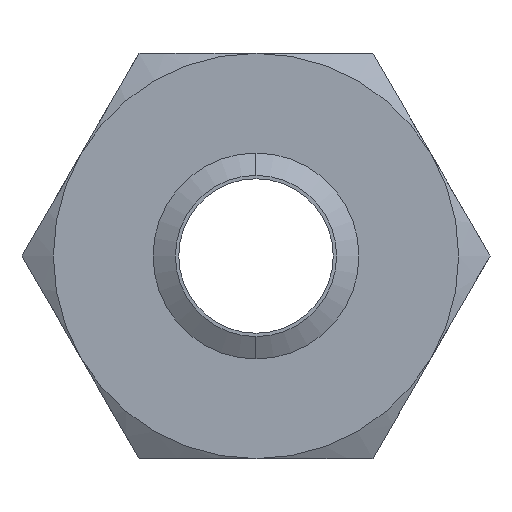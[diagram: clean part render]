
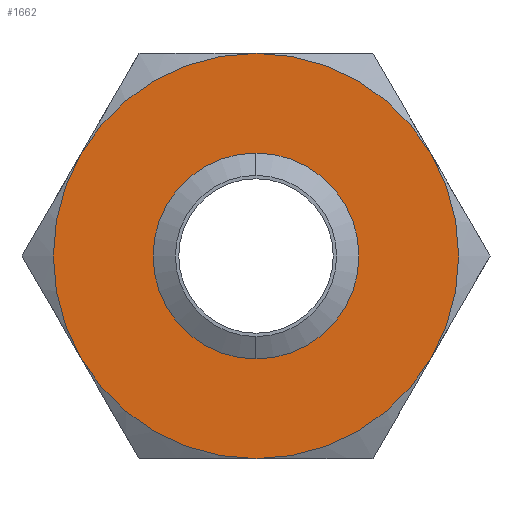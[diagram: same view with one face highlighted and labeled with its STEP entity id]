
A CAD part, front view. The second image highlights one B-rep face of the part: STEP entity #1662.
In plain terms, the highlighted planar face has unit normal (0, -1, 0).
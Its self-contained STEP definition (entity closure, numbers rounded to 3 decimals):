
#78 = VERTEX_POINT ( 'NONE', #367 ) ;
#194 = EDGE_CURVE ( 'NONE', #203, #1672, #592, .T. ) ;
#203 = VERTEX_POINT ( 'NONE', #630 ) ;
#367 = CARTESIAN_POINT ( 'NONE',  ( 21.651, 0., 12.5 ) ) ;
#588 = DIRECTION ( 'NONE',  ( 0., 0., 1. ) ) ;
#589 = DIRECTION ( 'NONE',  ( 0., 1., 0. ) ) ;
#590 = CARTESIAN_POINT ( 'NONE',  ( 0., 0., 0. ) ) ;
#591 = AXIS2_PLACEMENT_3D ( 'NONE', #590, #589, #588 ) ;
#592 = CIRCLE ( 'NONE', #591, 25. ) ;
#630 = CARTESIAN_POINT ( 'NONE',  ( -21.651, 0., 12.5 ) ) ;
#858 = DIRECTION ( 'NONE',  ( 0., 0., 1. ) ) ;
#859 = DIRECTION ( 'NONE',  ( 0., 1., 0. ) ) ;
#860 = AXIS2_PLACEMENT_3D ( 'NONE', #866, #859, #858 ) ;
#861 = CIRCLE ( 'NONE', #860, 25. ) ;
#866 = CARTESIAN_POINT ( 'NONE',  ( 0., 0., 0. ) ) ;
#874 = CARTESIAN_POINT ( 'NONE',  ( 21.651, 0., -12.5 ) ) ;
#883 = DIRECTION ( 'NONE',  ( 0., 0., 1. ) ) ;
#884 = DIRECTION ( 'NONE',  ( 0., 1., 0. ) ) ;
#886 = CARTESIAN_POINT ( 'NONE',  ( 14.434, 0., -25. ) ) ;
#887 = AXIS2_PLACEMENT_3D ( 'NONE', #886, #884, #883 ) ;
#888 = PLANE ( 'NONE',  #887 ) ;
#889 = FACE_BOUND ( 'NONE', #1692, .T. ) ;
#890 = FACE_OUTER_BOUND ( 'NONE', #1634, .T. ) ;
#926 = CARTESIAN_POINT ( 'NONE',  ( 0., 0., -25. ) ) ;
#927 = DIRECTION ( 'NONE',  ( 0., 0., 1. ) ) ;
#928 = DIRECTION ( 'NONE',  ( 0., 1., 0. ) ) ;
#929 = CARTESIAN_POINT ( 'NONE',  ( 0., 0., 0. ) ) ;
#930 = AXIS2_PLACEMENT_3D ( 'NONE', #929, #928, #927 ) ;
#931 = CIRCLE ( 'NONE', #930, 25. ) ;
#939 = DIRECTION ( 'NONE',  ( 0., 0., 1. ) ) ;
#940 = DIRECTION ( 'NONE',  ( 0., 1., 0. ) ) ;
#941 = CARTESIAN_POINT ( 'NONE',  ( 0., 0., 0. ) ) ;
#942 = AXIS2_PLACEMENT_3D ( 'NONE', #941, #940, #939 ) ;
#943 = CIRCLE ( 'NONE', #942, 25. ) ;
#945 = CARTESIAN_POINT ( 'NONE',  ( -21.651, 0., -12.5 ) ) ;
#946 = CARTESIAN_POINT ( 'NONE',  ( 0., 0., 25. ) ) ;
#951 = CARTESIAN_POINT ( 'NONE',  ( 0., 0., 0. ) ) ;
#959 = DIRECTION ( 'NONE',  ( 0., 0., 1. ) ) ;
#960 = DIRECTION ( 'NONE',  ( 0., 1., 0. ) ) ;
#961 = CARTESIAN_POINT ( 'NONE',  ( 0., 0., 0. ) ) ;
#962 = AXIS2_PLACEMENT_3D ( 'NONE', #961, #960, #959 ) ;
#963 = CIRCLE ( 'NONE', #962, 25. ) ;
#964 = DIRECTION ( 'NONE',  ( 0., 0., 1. ) ) ;
#965 = DIRECTION ( 'NONE',  ( 0., 1., 0. ) ) ;
#966 = CARTESIAN_POINT ( 'NONE',  ( 0., 0., 0. ) ) ;
#967 = AXIS2_PLACEMENT_3D ( 'NONE', #966, #965, #964 ) ;
#968 = CIRCLE ( 'NONE', #967, 25. ) ;
#1006 = DIRECTION ( 'NONE',  ( 0., 0., -1. ) ) ;
#1007 = DIRECTION ( 'NONE',  ( 0., -1., 0. ) ) ;
#1008 = AXIS2_PLACEMENT_3D ( 'NONE', #951, #1007, #1006 ) ;
#1009 = CIRCLE ( 'NONE', #1008, 9.946 ) ;
#1331 = DIRECTION ( 'NONE',  ( 0., 0., -1. ) ) ;
#1332 = DIRECTION ( 'NONE',  ( 0., -1., 0. ) ) ;
#1333 = CARTESIAN_POINT ( 'NONE',  ( 0., 0., 0. ) ) ;
#1334 = AXIS2_PLACEMENT_3D ( 'NONE', #1333, #1332, #1331 ) ;
#1335 = CIRCLE ( 'NONE', #1334, 9.946 ) ;
#1336 = CARTESIAN_POINT ( 'NONE',  ( 0., 0., -9.946 ) ) ;
#1337 = CARTESIAN_POINT ( 'NONE',  ( 0., 0., 9.946 ) ) ;
#1634 = EDGE_LOOP ( 'NONE', ( #1648, #1647, #1674, #1667, #1665, #1666 ) ) ;
#1639 = VERTEX_POINT ( 'NONE', #874 ) ;
#1644 = EDGE_CURVE ( 'NONE', #1672, #78, #861, .T. ) ;
#1647 = ORIENTED_EDGE ( 'NONE', *, *, #194, .F. ) ;
#1648 = ORIENTED_EDGE ( 'NONE', *, *, #1644, .F. ) ;
#1662 = ADVANCED_FACE ( 'NONE', ( #890, #889 ), #888, .F. ) ;
#1665 = ORIENTED_EDGE ( 'NONE', *, *, #1694, .F. ) ;
#1666 = ORIENTED_EDGE ( 'NONE', *, *, #1693, .F. ) ;
#1667 = ORIENTED_EDGE ( 'NONE', *, *, #1682, .F. ) ;
#1672 = VERTEX_POINT ( 'NONE', #946 ) ;
#1673 = VERTEX_POINT ( 'NONE', #945 ) ;
#1674 = ORIENTED_EDGE ( 'NONE', *, *, #1675, .F. ) ;
#1675 = EDGE_CURVE ( 'NONE', #1673, #203, #943, .T. ) ;
#1682 = EDGE_CURVE ( 'NONE', #1684, #1673, #931, .T. ) ;
#1684 = VERTEX_POINT ( 'NONE', #926 ) ;
#1692 = EDGE_LOOP ( 'NONE', ( #1695, #1696 ) ) ;
#1693 = EDGE_CURVE ( 'NONE', #78, #1639, #968, .T. ) ;
#1694 = EDGE_CURVE ( 'NONE', #1639, #1684, #963, .T. ) ;
#1695 = ORIENTED_EDGE ( 'NONE', *, *, #1848, .F. ) ;
#1696 = ORIENTED_EDGE ( 'NONE', *, *, #1708, .F. ) ;
#1708 = EDGE_CURVE ( 'NONE', #1844, #1846, #1009, .T. ) ;
#1844 = VERTEX_POINT ( 'NONE', #1337 ) ;
#1846 = VERTEX_POINT ( 'NONE', #1336 ) ;
#1848 = EDGE_CURVE ( 'NONE', #1846, #1844, #1335, .T. ) ;
